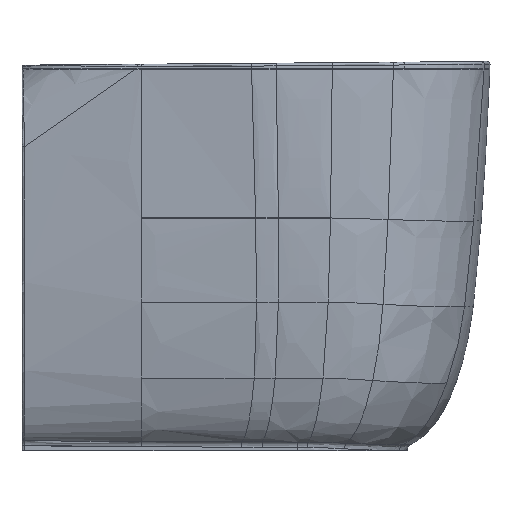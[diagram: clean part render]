
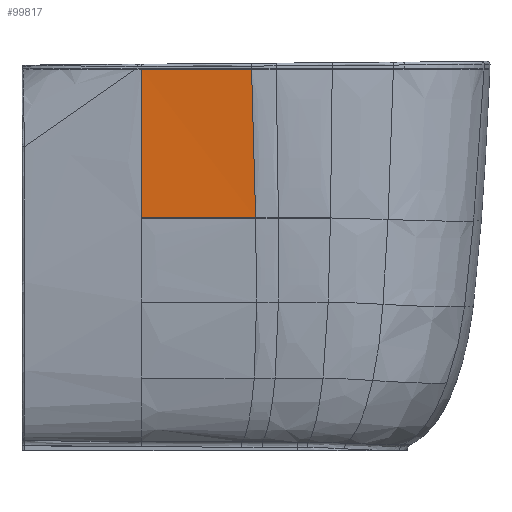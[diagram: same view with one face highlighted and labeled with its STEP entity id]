
A CAD part, front view. The second image highlights one B-rep face of the part: STEP entity #99817.
In plain terms, the highlighted free-form (B-spline) face has degree [5, 5] with [6, 9] control points.
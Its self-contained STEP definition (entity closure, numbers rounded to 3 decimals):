
#95213=CARTESIAN_POINT('Vertex',(130.,-169.222,-166.537)) ;
#95217=CARTESIAN_POINT('Control Point',(130.,-172.009,-4.231)) ;
#95218=CARTESIAN_POINT('Control Point',(130.,-172.033,-20.574)) ;
#95219=CARTESIAN_POINT('Control Point',(130.,-171.978,-36.889)) ;
#95220=CARTESIAN_POINT('Control Point',(130.,-171.844,-53.089)) ;
#95221=CARTESIAN_POINT('Control Point',(130.,-171.552,-75.667)) ;
#95222=CARTESIAN_POINT('Control Point',(130.,-171.116,-98.261)) ;
#95223=CARTESIAN_POINT('Control Point',(130.,-170.981,-104.688)) ;
#95224=CARTESIAN_POINT('Control Point',(130.,-170.688,-117.557)) ;
#95225=CARTESIAN_POINT('Control Point',(130.,-170.349,-130.455)) ;
#95226=CARTESIAN_POINT('Control Point',(130.,-170.169,-136.911)) ;
#95227=CARTESIAN_POINT('Control Point',(130.,-169.878,-146.714)) ;
#95228=CARTESIAN_POINT('Control Point',(130.,-169.563,-156.514)) ;
#95229=CARTESIAN_POINT('Control Point',(130.,-169.453,-159.856)) ;
#95230=CARTESIAN_POINT('Control Point',(130.,-169.338,-163.196)) ;
#95231=CARTESIAN_POINT('Control Point',(130.,-169.222,-166.537)) ;
#95232=CARTESIAN_POINT('Vertex',(130.,-172.009,-4.231)) ;
#99702=CARTESIAN_POINT('Vertex',(254.586,-175.089,-166.537)) ;
#99706=CARTESIAN_POINT('Control Point',(254.586,-175.089,-166.537)) ;
#99707=CARTESIAN_POINT('Control Point',(242.103,-174.958,-166.537)) ;
#99708=CARTESIAN_POINT('Control Point',(229.621,-174.713,-166.537)) ;
#99709=CARTESIAN_POINT('Control Point',(217.144,-174.353,-166.537)) ;
#99710=CARTESIAN_POINT('Control Point',(198.438,-173.641,-166.537)) ;
#99711=CARTESIAN_POINT('Control Point',(179.75,-172.673,-166.537)) ;
#99712=CARTESIAN_POINT('Control Point',(173.524,-172.322,-166.537)) ;
#99713=CARTESIAN_POINT('Control Point',(164.187,-171.752,-166.537)) ;
#99714=CARTESIAN_POINT('Control Point',(154.857,-171.119,-166.537)) ;
#99715=CARTESIAN_POINT('Control Point',(151.748,-170.901,-166.537)) ;
#99716=CARTESIAN_POINT('Control Point',(145.531,-170.451,-166.537)) ;
#99717=CARTESIAN_POINT('Control Point',(139.317,-169.972,-166.537)) ;
#99718=CARTESIAN_POINT('Control Point',(136.211,-169.726,-166.537)) ;
#99719=CARTESIAN_POINT('Control Point',(133.105,-169.476,-166.537)) ;
#99720=CARTESIAN_POINT('Control Point',(130.,-169.222,-166.537)) ;
#99730=CARTESIAN_POINT('Control Point',(250.,-180.,0.042)) ;
#99731=CARTESIAN_POINT('Control Point',(225.938,-179.612,0.042)) ;
#99732=CARTESIAN_POINT('Control Point',(201.886,-178.617,0.042)) ;
#99733=CARTESIAN_POINT('Control Point',(177.869,-177.014,0.042)) ;
#99734=CARTESIAN_POINT('Control Point',(141.915,-173.702,0.042)) ;
#99735=CARTESIAN_POINT('Control Point',(106.118,-169.044,0.042)) ;
#99736=CARTESIAN_POINT('Control Point',(94.186,-167.492,0.042)) ;
#99737=CARTESIAN_POINT('Control Point',(82.255,-165.939,0.042)) ;
#99738=CARTESIAN_POINT('Control Point',(70.323,-164.387,0.042)) ;
#99739=CARTESIAN_POINT('Control Point',(251.52,-179.83,-33.281)) ;
#99740=CARTESIAN_POINT('Control Point',(227.812,-179.472,-33.281)) ;
#99741=CARTESIAN_POINT('Control Point',(204.113,-178.557,-33.281)) ;
#99742=CARTESIAN_POINT('Control Point',(180.446,-177.082,-33.281)) ;
#99743=CARTESIAN_POINT('Control Point',(145.011,-174.034,-33.281)) ;
#99744=CARTESIAN_POINT('Control Point',(109.722,-169.747,-33.281)) ;
#99745=CARTESIAN_POINT('Control Point',(97.958,-168.318,-33.281)) ;
#99746=CARTESIAN_POINT('Control Point',(86.195,-166.889,-33.281)) ;
#99747=CARTESIAN_POINT('Control Point',(74.432,-165.46,-33.281)) ;
#99748=CARTESIAN_POINT('Control Point',(252.696,-179.24,-66.603)) ;
#99749=CARTESIAN_POINT('Control Point',(229.341,-178.913,-66.603)) ;
#99750=CARTESIAN_POINT('Control Point',(205.995,-178.077,-66.603)) ;
#99751=CARTESIAN_POINT('Control Point',(182.679,-176.73,-66.603)) ;
#99752=CARTESIAN_POINT('Control Point',(147.763,-173.945,-66.603)) ;
#99753=CARTESIAN_POINT('Control Point',(112.981,-170.03,-66.603)) ;
#99754=CARTESIAN_POINT('Control Point',(101.386,-168.725,-66.603)) ;
#99755=CARTESIAN_POINT('Control Point',(89.791,-167.419,-66.603)) ;
#99756=CARTESIAN_POINT('Control Point',(78.196,-166.114,-66.603)) ;
#99757=CARTESIAN_POINT('Control Point',(253.555,-178.215,-99.912)) ;
#99758=CARTESIAN_POINT('Control Point',(230.554,-177.92,-99.912)) ;
#99759=CARTESIAN_POINT('Control Point',(207.561,-177.163,-99.912)) ;
#99760=CARTESIAN_POINT('Control Point',(184.594,-175.943,-99.912)) ;
#99761=CARTESIAN_POINT('Control Point',(150.198,-173.423,-99.912)) ;
#99762=CARTESIAN_POINT('Control Point',(115.923,-169.879,-99.912)) ;
#99763=CARTESIAN_POINT('Control Point',(104.496,-168.697,-99.912)) ;
#99764=CARTESIAN_POINT('Control Point',(93.07,-167.515,-99.912)) ;
#99765=CARTESIAN_POINT('Control Point',(81.644,-166.334,-99.912)) ;
#99766=CARTESIAN_POINT('Control Point',(254.174,-176.833,-133.225)) ;
#99767=CARTESIAN_POINT('Control Point',(231.526,-176.568,-133.225)) ;
#99768=CARTESIAN_POINT('Control Point',(208.886,-175.89,-133.225)) ;
#99769=CARTESIAN_POINT('Control Point',(186.269,-174.798,-133.225)) ;
#99770=CARTESIAN_POINT('Control Point',(152.393,-172.542,-133.225)) ;
#99771=CARTESIAN_POINT('Control Point',(118.624,-169.368,-133.225)) ;
#99772=CARTESIAN_POINT('Control Point',(107.366,-168.311,-133.225)) ;
#99773=CARTESIAN_POINT('Control Point',(96.109,-167.253,-133.225)) ;
#99774=CARTESIAN_POINT('Control Point',(84.851,-166.195,-133.225)) ;
#99775=CARTESIAN_POINT('Control Point',(254.586,-175.089,-166.537)) ;
#99776=CARTESIAN_POINT('Control Point',(232.293,-174.855,-166.537)) ;
#99777=CARTESIAN_POINT('Control Point',(210.005,-174.257,-166.537)) ;
#99778=CARTESIAN_POINT('Control Point',(187.739,-173.292,-166.537)) ;
#99779=CARTESIAN_POINT('Control Point',(154.382,-171.3,-166.537)) ;
#99780=CARTESIAN_POINT('Control Point',(121.12,-168.497,-166.537)) ;
#99781=CARTESIAN_POINT('Control Point',(110.031,-167.563,-166.537)) ;
#99782=CARTESIAN_POINT('Control Point',(98.942,-166.629,-166.537)) ;
#99783=CARTESIAN_POINT('Control Point',(87.853,-165.695,-166.537)) ;
#99785=CARTESIAN_POINT('Control Point',(250.193,-179.975,-4.231)) ;
#99786=CARTESIAN_POINT('Control Point',(238.145,-179.783,-4.231)) ;
#99787=CARTESIAN_POINT('Control Point',(226.1,-179.439,-4.231)) ;
#99788=CARTESIAN_POINT('Control Point',(214.06,-178.944,-4.231)) ;
#99789=CARTESIAN_POINT('Control Point',(196.012,-177.974,-4.231)) ;
#99790=CARTESIAN_POINT('Control Point',(177.986,-176.665,-4.231)) ;
#99791=CARTESIAN_POINT('Control Point',(171.981,-176.191,-4.231)) ;
#99792=CARTESIAN_POINT('Control Point',(161.204,-175.273,-4.231)) ;
#99793=CARTESIAN_POINT('Control Point',(150.439,-174.234,-4.231)) ;
#99794=CARTESIAN_POINT('Control Point',(145.672,-173.75,-4.231)) ;
#99795=CARTESIAN_POINT('Control Point',(139.682,-173.111,-4.231)) ;
#99796=CARTESIAN_POINT('Control Point',(133.695,-172.435,-4.231)) ;
#99797=CARTESIAN_POINT('Control Point',(132.454,-172.294,-4.231)) ;
#99798=CARTESIAN_POINT('Control Point',(131.225,-172.152,-4.231)) ;
#99799=CARTESIAN_POINT('Control Point',(130.,-172.009,-4.231)) ;
#99800=CARTESIAN_POINT('Vertex',(250.193,-179.975,-4.231)) ;
#99804=CARTESIAN_POINT('Control Point',(254.586,-175.089,-166.537)) ;
#99805=CARTESIAN_POINT('Control Point',(254.184,-176.788,-134.079)) ;
#99806=CARTESIAN_POINT('Control Point',(253.587,-178.144,-101.621)) ;
#99807=CARTESIAN_POINT('Control Point',(252.761,-179.16,-69.166)) ;
#99808=CARTESIAN_POINT('Control Point',(251.639,-179.767,-36.699)) ;
#99809=CARTESIAN_POINT('Control Point',(250.193,-179.975,-4.231)) ;
#99812=ORIENTED_EDGE('',*,*,#99802,.T.) ;
#99813=ORIENTED_EDGE('',*,*,#95234,.T.) ;
#99814=ORIENTED_EDGE('',*,*,#99721,.F.) ;
#99815=ORIENTED_EDGE('',*,*,#99810,.T.) ;
#99817=ADVANCED_FACE('Modello',(#99816),#99729,.F.) ;
#95216=B_SPLINE_CURVE_WITH_KNOTS('',5,(#95217,#95218,#95219,#95220,#95221,#95222,#95223,#95224,#95225,#95226,#95227,#95228,#95229,#95230,#95231),.UNSPECIFIED.,.F.,.U.,(6,3,3,3,6),(6.984,140.546,193.598,246.65,274.107),.UNSPECIFIED.) ;
#99705=B_SPLINE_CURVE_WITH_KNOTS('',5,(#99706,#99707,#99708,#99709,#99710,#99711,#99712,#99713,#99714,#99715,#99716,#99717,#99718,#99719,#99720),.UNSPECIFIED.,.F.,.U.,(6,3,3,3,6),(0.,66.889,100.333,117.056,133.778),.UNSPECIFIED.) ;
#99784=B_SPLINE_CURVE_WITH_KNOTS('',5,(#99785,#99786,#99787,#99788,#99789,#99790,#99791,#99792,#99793,#99794,#99795,#99796,#99797,#99798,#99799),.UNSPECIFIED.,.F.,.U.,(6,3,3,3,6),(0.,84.973,127.459,161.249,169.946),.UNSPECIFIED.) ;
#99803=B_SPLINE_CURVE_WITH_KNOTS('',5,(#99804,#99805,#99806,#99807,#99808,#99809),.UNSPECIFIED.,.F.,.U.,(6,6),(-82.59,78.353),.UNSPECIFIED.) ;
#99729=B_SPLINE_SURFACE_WITH_KNOTS('',5,5,((#99730,#99731,#99732,#99733,#99734,#99735,#99736,#99737,#99738),(#99739,#99740,#99741,#99742,#99743,#99744,#99745,#99746,#99747),(#99748,#99749,#99750,#99751,#99752,#99753,#99754,#99755,#99756),(#99757,#99758,#99759,#99760,#99761,#99762,#99763,#99764,#99765),(#99766,#99767,#99768,#99769,#99770,#99771,#99772,#99773,#99774),(#99775,#99776,#99777,#99778,#99779,#99780,#99781,#99782,#99783)),.UNSPECIFIED.,.F.,.F.,.U.,(6,6),(6,3,6),(0.,165.18),(0.,119.452,179.178),.UNSPECIFIED.) ;
#95234=EDGE_CURVE('',#95233,#95214,#95216,.T.) ;
#99721=EDGE_CURVE('',#99703,#95214,#99705,.T.) ;
#99802=EDGE_CURVE('',#99801,#95233,#99784,.T.) ;
#99810=EDGE_CURVE('',#99703,#99801,#99803,.T.) ;
#99811=EDGE_LOOP('',(#99812,#99813,#99814,#99815)) ;
#99816=FACE_OUTER_BOUND('',#99811,.T.) ;
#95214=VERTEX_POINT('',#95213) ;
#95233=VERTEX_POINT('',#95232) ;
#99703=VERTEX_POINT('',#99702) ;
#99801=VERTEX_POINT('',#99800) ;
